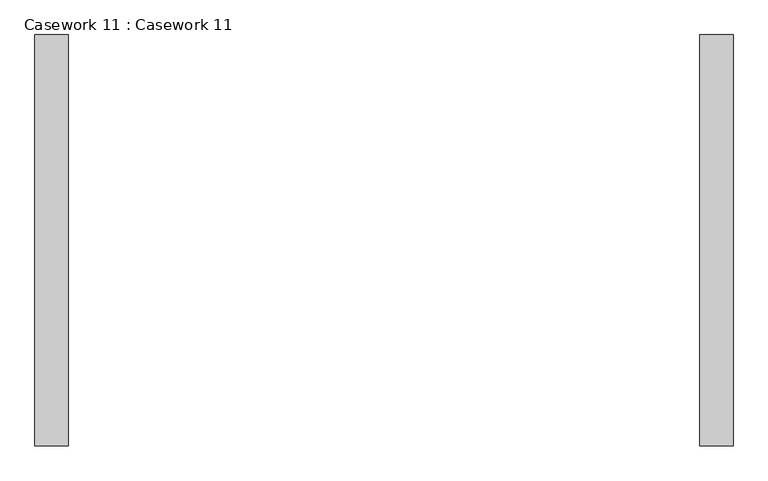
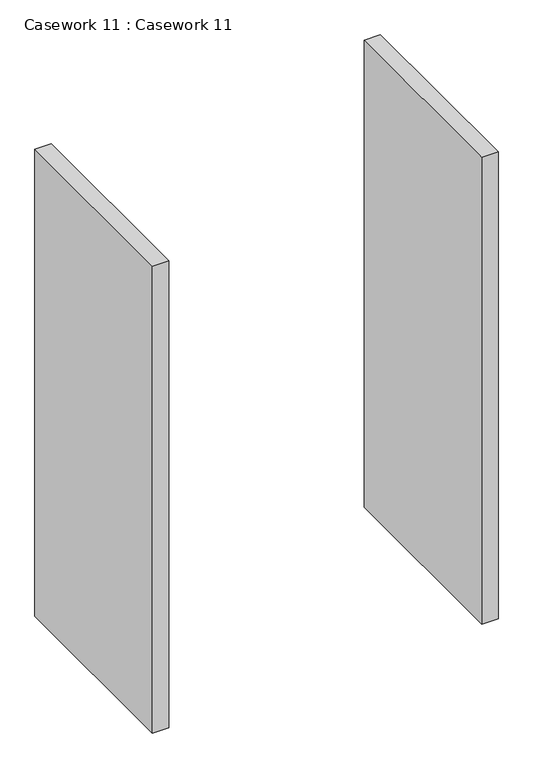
"""IFC4 building model written with IfcOpenShell, lengths in millimetres: furniture geometry, Casework 11 : Casework 11."""

from ifc_helpers import new_model, si_unit, frame, origin, place, context, project, spatial, polyline, outline, extrude, source, transform, mapped, element, save


def casework_11_casework_11_a0dce881(model_context):
    return source(origin(), model_context, "Body", "SweptSolid", [
        extrude(outline(polyline([(2870.2, 10045.7), (2921.0, 10045.7), (2921.0, 9416.9447939), (2870.2, 9416.9447939), (2870.2, 10045.7)])), frame((0.0, 0.0, 3348.0), z_axis=(0.0, 0.0, 1.0), x_axis=(1.0, 0.0, 0.0)), (0.0, 0.0, 1.0), 1524.0),
        extrude(outline(polyline([(3937.0, 10045.7), (3937.0, 9416.9447939), (3886.2, 9416.9447939), (3886.2, 10045.7), (3937.0, 10045.7)])), frame((0.0, 0.0, 3348.0), z_axis=(0.0, 0.0, 1.0), x_axis=(1.0, 0.0, 0.0)), (0.0, 0.0, 1.0), 1524.0),
    ])


if __name__ == "__main__":
    model = new_model("IFC4")
    model_context = context("Model", 3, world=origin())
    ifc_project = project(units=[si_unit("LENGTHUNIT", "METRE", prefix="MILLI")], contexts=[model_context])
    site = spatial("IfcSite", under=ifc_project)
    building = spatial("IfcBuilding", under=site)
    placement = place(None, origin())
    casework_11_casework_11_shape = casework_11_casework_11_a0dce881(model_context)
    element("IfcFurniture", 1, ObjectType="Casework 11 : Casework 11", at=placement, inside=building, context=model_context, shape_type="MappedRepresentation", body=[
        mapped(casework_11_casework_11_shape, transform((0.0, 0.0, 0.0), x_axis=(1.0, 0.0, 0.0), y_axis=(0.0, 1.0, 0.0), z_axis=(0.0, 0.0, 1.0))),
    ])
    save(model, "model.ifc")
